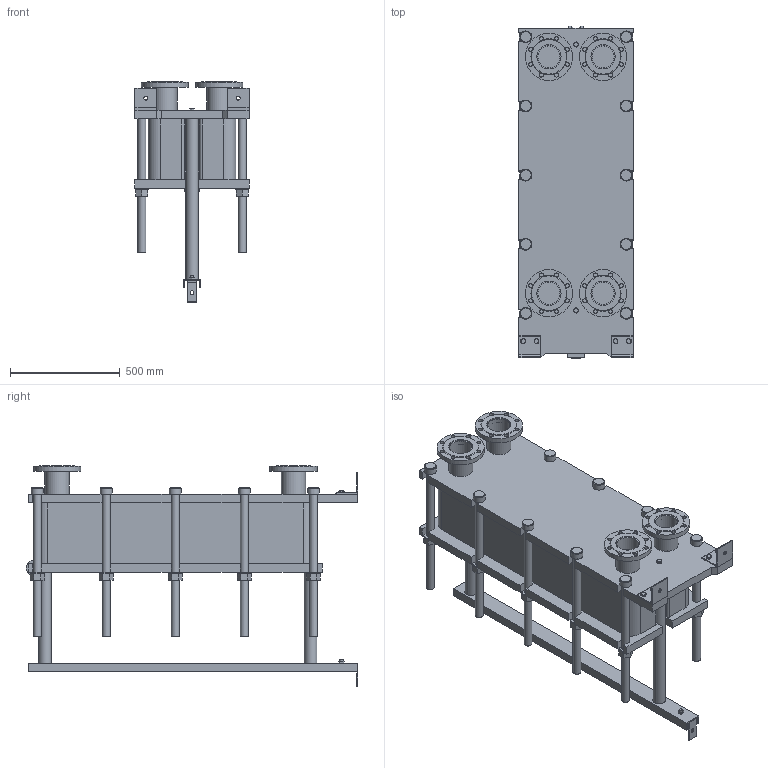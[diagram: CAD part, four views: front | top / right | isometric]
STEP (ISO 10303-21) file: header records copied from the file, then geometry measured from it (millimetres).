
FILE_DESCRIPTION(/* description */ (''),/* implementation_level */ '2;1');
FILE_NAME(/* name */ 'C:\Users\zhuro\Desktop\ENCO\TO\ЭН-04\ЭН-0,5-04-80-1.stp',/* time_stamp */ '2022-06-06T10:51:45+03:00',/* author */ ('zhuro'),/* organization */ (''),/* preprocessor_version */ 'ST-DEVELOPER v18.1',/* originating_system */ 'Autodesk Inventor 2022',/* authorisation */ '');
FILE_SCHEMA (('AUTOMOTIVE_DESIGN { 1 0 10303 214 3 1 1 }'));
Length unit declared in the file: millimetre
Products named in the file (1): ЭН-0,5-04-80-1
Bounding box: 520 x 1510 x 1005 mm (x, y, z)
Volume: 208061891.7 mm3; surface area: 7915460.1 mm2
Topology: 45 solids, 45 shells, 668 faces, 1611 edges, 1048 vertices
Faces by surface type: plane 457, cylinder 166, cone 39, torus 6
Full cylindrical faces by diameter (mm): 8 x4, 10 x2, 16 x8, 18 x35, 36 x25, 40 x2, 42 x1, 45 x4, 54 x10, 57 x2, 60 x10, 68 x2, 100 x4, 110 x8, 215 x4
Entity records: 23607 total; most frequent: CARTESIAN_POINT 7348, DIRECTION 3371, ORIENTED_EDGE 3142, EDGE_CURVE 1571, AXIS2_PLACEMENT_3D 1199, VERTEX_POINT 1044, LINE 973, VECTOR 973
